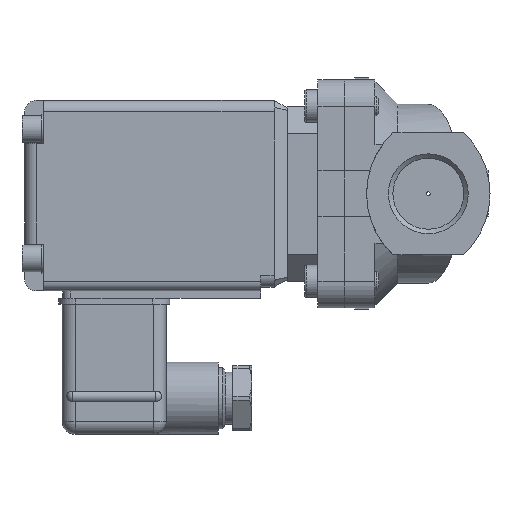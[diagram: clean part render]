
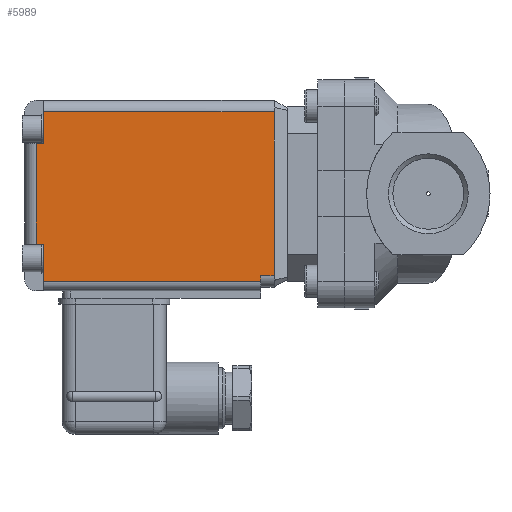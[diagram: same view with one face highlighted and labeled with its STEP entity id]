
A CAD part, left-side view. The second image highlights one B-rep face of the part: STEP entity #5989.
In plain terms, the highlighted planar face has unit normal (-1, 0, 0).
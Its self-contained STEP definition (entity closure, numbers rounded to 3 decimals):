
#616=ORIENTED_EDGE('',*,*,#1971,.T.);
#617=ORIENTED_EDGE('',*,*,#1932,.T.);
#618=ORIENTED_EDGE('',*,*,#1972,.F.);
#619=ORIENTED_EDGE('',*,*,#1970,.T.);
#620=ORIENTED_EDGE('',*,*,#1973,.T.);
#621=ORIENTED_EDGE('',*,*,#1974,.T.);
#622=ORIENTED_EDGE('',*,*,#1975,.F.);
#623=ORIENTED_EDGE('',*,*,#1952,.F.);
#624=ORIENTED_EDGE('',*,*,#1976,.F.);
#625=ORIENTED_EDGE('',*,*,#1949,.F.);
#1932=EDGE_CURVE('',#2597,#2596,#3026,.T.);
#1949=EDGE_CURVE('',#2613,#2614,#3040,.T.);
#1952=EDGE_CURVE('',#2615,#2617,#3042,.T.);
#1970=EDGE_CURVE('',#2632,#2634,#3049,.T.);
#1971=EDGE_CURVE('',#2613,#2597,#3050,.T.);
#1972=EDGE_CURVE('',#2632,#2596,#3051,.T.);
#1973=EDGE_CURVE('',#2634,#2635,#3052,.T.);
#1974=EDGE_CURVE('',#2635,#2636,#3053,.T.);
#1975=EDGE_CURVE('',#2617,#2636,#3054,.T.);
#1976=EDGE_CURVE('',#2614,#2615,#3055,.T.);
#2596=VERTEX_POINT('',#8465);
#2597=VERTEX_POINT('',#8467);
#2613=VERTEX_POINT('',#8501);
#2614=VERTEX_POINT('',#8503);
#2615=VERTEX_POINT('',#8507);
#2617=VERTEX_POINT('',#8510);
#2632=VERTEX_POINT('',#8551);
#2634=VERTEX_POINT('',#8555);
#2635=VERTEX_POINT('',#8561);
#2636=VERTEX_POINT('',#8563);
#3026=LINE('',#8466,#3436);
#3040=LINE('',#8502,#3450);
#3042=LINE('',#8509,#3452);
#3049=LINE('',#8556,#3459);
#3050=LINE('',#8558,#3460);
#3051=LINE('',#8559,#3461);
#3052=LINE('',#8560,#3462);
#3053=LINE('',#8562,#3463);
#3054=LINE('',#8564,#3464);
#3055=LINE('',#8565,#3465);
#3436=VECTOR('',#6925,1000.);
#3450=VECTOR('',#6949,1000.);
#3452=VECTOR('',#6955,1000.);
#3459=VECTOR('',#6986,1000.);
#3460=VECTOR('',#6989,1000.);
#3461=VECTOR('',#6990,1000.);
#3462=VECTOR('',#6991,1000.);
#3463=VECTOR('',#6992,1000.);
#3464=VECTOR('',#6993,1000.);
#3465=VECTOR('',#6994,1000.);
#3811=EDGE_LOOP('',(#616,#617,#618,#619,#620,#621,#622,#623,#624,#625));
#4153=FACE_BOUND('',#3811,.T.);
#4474=PLANE('',#6329);
#5989=ADVANCED_FACE('',(#4153),#4474,.F.);
#6329=AXIS2_PLACEMENT_3D('',#8557,#6987,#6988);
#6925=DIRECTION('',(0.,-1.,0.));
#6949=DIRECTION('',(0.,-1.,0.));
#6955=DIRECTION('',(0.,-1.,0.));
#6986=DIRECTION('',(0.,-1.,0.));
#6987=DIRECTION('',(1.,0.,0.));
#6988=DIRECTION('',(0.,0.,-1.));
#6989=DIRECTION('',(0.,0.,-1.));
#6990=DIRECTION('',(0.,0.,1.));
#6991=DIRECTION('',(0.,0.,1.));
#6992=DIRECTION('',(0.,-1.,0.));
#6993=DIRECTION('',(0.,0.,-1.));
#6994=DIRECTION('',(0.,0.,1.));
#8465=CARTESIAN_POINT('',(-24.5,79.,-13.25));
#8466=CARTESIAN_POINT('',(-24.5,84.,-13.25));
#8467=CARTESIAN_POINT('',(-24.5,81.,-13.25));
#8501=CARTESIAN_POINT('',(-24.5,81.,13.25));
#8502=CARTESIAN_POINT('',(-24.5,84.,13.25));
#8503=CARTESIAN_POINT('',(-24.5,79.,13.25));
#8507=CARTESIAN_POINT('',(-24.5,79.,21.5));
#8509=CARTESIAN_POINT('',(-24.5,84.,21.5));
#8510=CARTESIAN_POINT('',(-24.5,18.5,21.5));
#8551=CARTESIAN_POINT('',(-24.5,79.,-23.));
#8555=CARTESIAN_POINT('',(-24.5,22.,-23.));
#8556=CARTESIAN_POINT('',(-24.5,91.,-23.));
#8557=CARTESIAN_POINT('',(-24.5,84.,-24.5));
#8558=CARTESIAN_POINT('',(-24.5,81.,26.5));
#8559=CARTESIAN_POINT('',(-24.5,79.,-24.5));
#8560=CARTESIAN_POINT('',(-24.5,22.,-25.5));
#8561=CARTESIAN_POINT('',(-24.5,22.,-21.5));
#8562=CARTESIAN_POINT('',(-24.5,84.,-21.5));
#8563=CARTESIAN_POINT('',(-24.5,18.5,-21.5));
#8564=CARTESIAN_POINT('',(-24.5,18.5,24.5));
#8565=CARTESIAN_POINT('',(-24.5,79.,-24.5));
